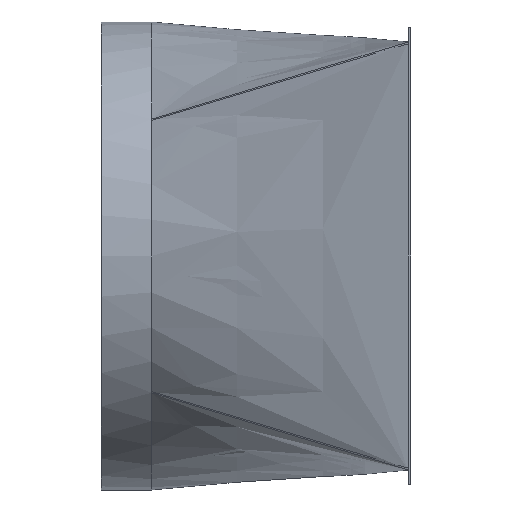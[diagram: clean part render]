
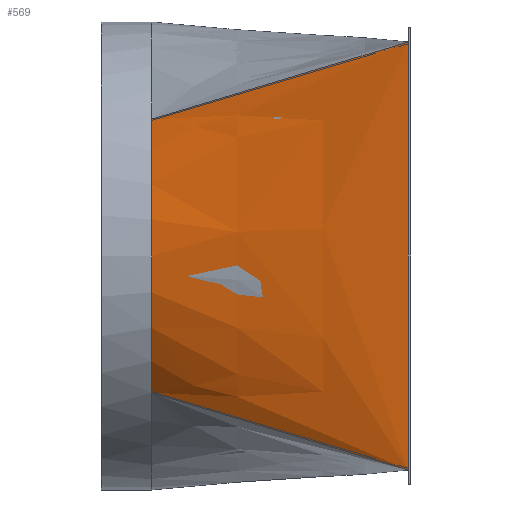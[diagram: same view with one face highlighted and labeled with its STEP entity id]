
A CAD part, left-side view. The second image highlights one B-rep face of the part: STEP entity #569.
In plain terms, the highlighted free-form (B-spline) face has degree [3, 3] with [8, 4] control points.
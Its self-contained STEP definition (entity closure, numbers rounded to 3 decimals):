
#22=B_SPLINE_SURFACE_WITH_KNOTS('',3,3,((#1415,#1416,#1417,#1418),(#1419,
#1420,#1421,#1422),(#1423,#1424,#1425,#1426),(#1427,#1428,#1429,#1430),
(#1431,#1432,#1433,#1434),(#1435,#1436,#1437,#1438),(#1439,#1440,#1441,
#1442),(#1443,#1444,#1445,#1446)),.UNSPECIFIED.,.F.,.F.,.F.,(4,1,1,1,1,
4),(4,4),(0.,0.143,0.286,0.571,0.857,
1.),(0.01,1.),.UNSPECIFIED.);
#26=B_SPLINE_CURVE_WITH_KNOTS('',3,(#855,#856,#857,#858,#859,#860,#861,
#862,#863,#864,#865,#866,#867,#868,#869,#870),.UNSPECIFIED.,.F.,.F.,(4,
3,3,3,3,4),(-51.688,-44.304,-36.92,-22.152,
-7.384,0.),.UNSPECIFIED.);
#98=FACE_OUTER_BOUND('',#136,.T.);
#136=EDGE_LOOP('',(#534,#535,#536,#537));
#166=LINE('',#1165,#200);
#170=LINE('',#1414,#204);
#200=VECTOR('',#720,348.802);
#204=VECTOR('',#748,348.802);
#227=CIRCLE('',#628,280.);
#245=VERTEX_POINT('',#792);
#247=VERTEX_POINT('',#832);
#275=VERTEX_POINT('',#1163);
#288=VERTEX_POINT('',#1369);
#312=EDGE_CURVE('',#245,#247,#26,.T.);
#351=EDGE_CURVE('',#247,#275,#166,.T.);
#370=EDGE_CURVE('',#288,#275,#227,.T.);
#371=EDGE_CURVE('',#245,#288,#170,.T.);
#534=ORIENTED_EDGE('',*,*,#312,.T.);
#535=ORIENTED_EDGE('',*,*,#351,.T.);
#536=ORIENTED_EDGE('',*,*,#370,.F.);
#537=ORIENTED_EDGE('',*,*,#371,.F.);
#569=ADVANCED_FACE('',(#98),#22,.T.);
#628=AXIS2_PLACEMENT_3D('',#1371,#742,#743);
#720=DIRECTION('',(0.372,0.889,-0.268));
#742=DIRECTION('center_axis',(0.,1.,0.));
#743=DIRECTION('ref_axis',(1.,0.,0.));
#748=DIRECTION('',(0.372,0.889,0.268));
#792=CARTESIAN_POINT('',(-355.744,3.,-256.096));
#832=CARTESIAN_POINT('',(-355.744,3.,256.096));
#855=CARTESIAN_POINT('Ctrl Pts',(-355.744,3.,-256.096));
#856=CARTESIAN_POINT('Ctrl Pts',(-355.838,3.,-231.726));
#857=CARTESIAN_POINT('Ctrl Pts',(-355.921,3.,-207.348));
#858=CARTESIAN_POINT('Ctrl Pts',(-355.99,3.,-182.963));
#859=CARTESIAN_POINT('Ctrl Pts',(-356.06,3.,-158.578));
#860=CARTESIAN_POINT('Ctrl Pts',(-356.116,3.,-134.188));
#861=CARTESIAN_POINT('Ctrl Pts',(-356.159,3.,-109.793));
#862=CARTESIAN_POINT('Ctrl Pts',(-356.244,3.,-61.004));
#863=CARTESIAN_POINT('Ctrl Pts',(-356.273,3.,-12.199));
#864=CARTESIAN_POINT('Ctrl Pts',(-356.244,3.,36.6));
#865=CARTESIAN_POINT('Ctrl Pts',(-356.215,3.,85.4));
#866=CARTESIAN_POINT('Ctrl Pts',(-356.129,3.,134.194));
#867=CARTESIAN_POINT('Ctrl Pts',(-355.99,3.,182.963));
#868=CARTESIAN_POINT('Ctrl Pts',(-355.921,3.,207.348));
#869=CARTESIAN_POINT('Ctrl Pts',(-355.838,3.,231.726));
#870=CARTESIAN_POINT('Ctrl Pts',(-355.744,3.,256.096));
#1163=CARTESIAN_POINT('',(-227.242,310.,163.589));
#1165=CARTESIAN_POINT('',(-357.,0.,257.));
#1369=CARTESIAN_POINT('',(-227.242,310.,-163.589));
#1371=CARTESIAN_POINT('Origin',(0.,310.,0.));
#1414=CARTESIAN_POINT('',(-357.,0.,-257.));
#1415=CARTESIAN_POINT('Ctrl Pts',(-355.744,3.,-256.096));
#1416=CARTESIAN_POINT('Ctrl Pts',(-312.91,105.333,-225.26));
#1417=CARTESIAN_POINT('Ctrl Pts',(-270.076,207.667,-194.424));
#1418=CARTESIAN_POINT('Ctrl Pts',(-227.242,310.,-163.589));
#1419=CARTESIAN_POINT('Ctrl Pts',(-355.838,3.,-231.726));
#1420=CARTESIAN_POINT('Ctrl Pts',(-316.217,105.333,-204.513));
#1421=CARTESIAN_POINT('Ctrl Pts',(-276.584,207.667,-177.298));
#1422=CARTESIAN_POINT('Ctrl Pts',(-236.963,310.,-150.085));
#1423=CARTESIAN_POINT('Ctrl Pts',(-356.003,3.,-182.969));
#1424=CARTESIAN_POINT('Ctrl Pts',(-321.994,105.333,-162.425));
#1425=CARTESIAN_POINT('Ctrl Pts',(-287.991,207.667,-141.882));
#1426=CARTESIAN_POINT('Ctrl Pts',(-253.982,310.,-121.338));
#1427=CARTESIAN_POINT('Ctrl Pts',(-356.229,3.,-85.406));
#1428=CARTESIAN_POINT('Ctrl Pts',(-329.933,105.333,-76.514));
#1429=CARTESIAN_POINT('Ctrl Pts',(-303.63,207.667,-67.621));
#1430=CARTESIAN_POINT('Ctrl Pts',(-277.334,310.,-58.729));
#1431=CARTESIAN_POINT('Ctrl Pts',(-356.302,3.,36.605));
#1432=CARTESIAN_POINT('Ctrl Pts',(-332.49,105.333,32.89));
#1433=CARTESIAN_POINT('Ctrl Pts',(-308.685,207.667,29.175));
#1434=CARTESIAN_POINT('Ctrl Pts',(-284.873,310.,25.46));
#1435=CARTESIAN_POINT('Ctrl Pts',(-356.086,3.,158.591));
#1436=CARTESIAN_POINT('Ctrl Pts',(-324.902,105.333,141.388));
#1437=CARTESIAN_POINT('Ctrl Pts',(-293.711,207.667,124.182));
#1438=CARTESIAN_POINT('Ctrl Pts',(-262.527,310.,106.979));
#1439=CARTESIAN_POINT('Ctrl Pts',(-355.838,3.,231.726));
#1440=CARTESIAN_POINT('Ctrl Pts',(-316.21,105.333,204.511));
#1441=CARTESIAN_POINT('Ctrl Pts',(-276.591,207.667,177.3));
#1442=CARTESIAN_POINT('Ctrl Pts',(-236.963,310.,150.085));
#1443=CARTESIAN_POINT('Ctrl Pts',(-355.744,3.,256.096));
#1444=CARTESIAN_POINT('Ctrl Pts',(-312.91,105.333,225.26));
#1445=CARTESIAN_POINT('Ctrl Pts',(-270.076,207.667,194.424));
#1446=CARTESIAN_POINT('Ctrl Pts',(-227.242,310.,163.589));
